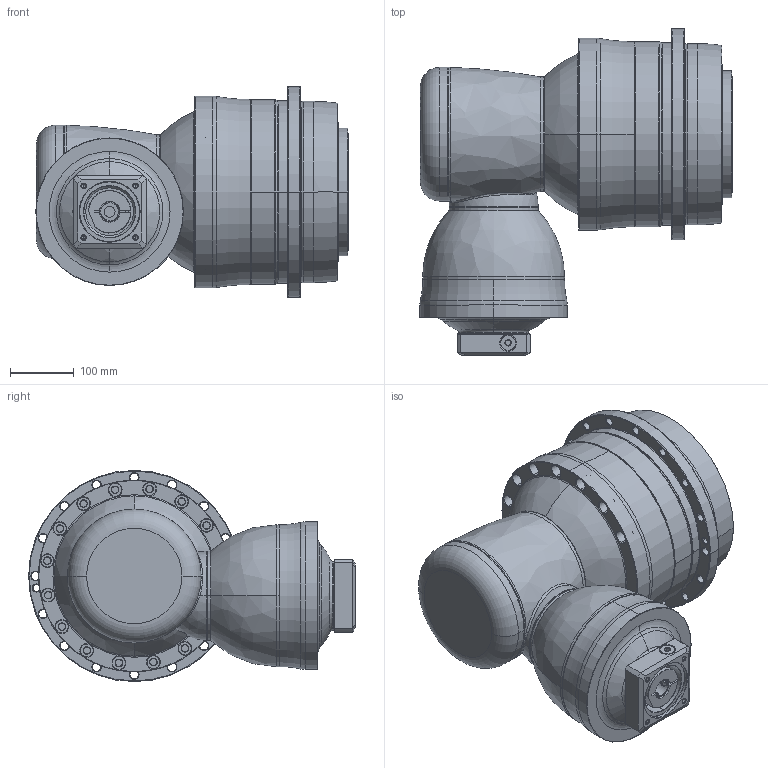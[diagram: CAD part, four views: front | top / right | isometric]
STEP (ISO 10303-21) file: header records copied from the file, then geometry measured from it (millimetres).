
FILE_DESCRIPTION((''),'2;1');
FILE_NAME('AHK285_4ST_28-P0409600101_ASM','2016-08-23T',('d01943'),(''),'PRO/ENGINEER BY PARAMETRIC TECHNOLOGY CORPORATION, 2008410','PRO/ENGINEER BY PARAMETRIC TECHNOLOGY CORPORATION, 2008410','');
FILE_SCHEMA(('CONFIG_CONTROL_DESIGN'));
Length unit declared in the file: millimetre
Products named in the file (12): P1008600002; P1832800001; P0278800003; P0359800003; P1315600001; P1007600001; P1317600101; P0409600101; P0503600010; P0912501201; 21711418017; AHK285_4ST_28-P0409600101_ASM
Assembly tree (11 placements, depth 2):
  AHK285_4ST_28-P0409600101_ASM
    P1008600002
    P1832800001
    P0278800003
    P0359800003
    P1315600001
    P1007600001
    P1317600101
    P0409600101
    P0503600010
    P0912501201
    21711418017
Bounding box: 491 x 513.5 x 332 mm (x, y, z)
Volume: 23224390.1 mm3; surface area: 1601969.5 mm2
Topology: 12 solids, 12 shells, 1063 faces, 2395 edges, 1381 vertices
Faces by surface type: cone 382, cylinder 370, plane 142, torus 128, bspline 39, sphere 2
Entity records: 36269 total; most frequent: CARTESIAN_POINT 11946, DIRECTION 5594, ORIENTED_EDGE 4646, AXIS2_PLACEMENT_3D 2385, EDGE_CURVE 2323, VERTEX_POINT 1381, CIRCLE 1338, EDGE_LOOP 1258
